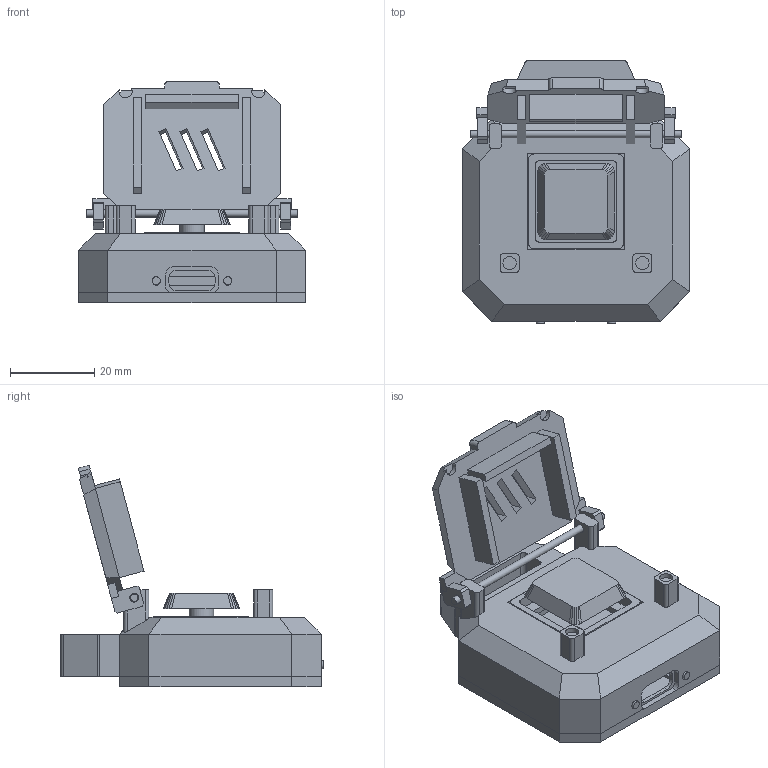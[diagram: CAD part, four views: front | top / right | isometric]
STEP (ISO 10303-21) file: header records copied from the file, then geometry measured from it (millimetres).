
FILE_DESCRIPTION(('Open CASCADE Model'),'2;1');
FILE_NAME('Open CASCADE Shape Model','2026-09-30T20:51:50',('Author'),( 'Open CASCADE'),'Open CASCADE STEP processor 7.9','Open CASCADE 7.9' ,'Unknown');
FILE_SCHEMA(('AUTOMOTIVE_DESIGN { 1 0 10303 214 1 1 1 1 }'));
Length unit declared in the file: millimetre
Products named in the file (9): ff07a9ea-bcff-11f1-a0bf-6319a275829e; upper_shell; bottom_chassis; keycap; accent_halo; lightguides; flip_shield_open; xiao_locking_wedge; filament_hinge_pin
Assembly tree (8 placements, depth 2):
  ff07a9ea-bcff-11f1-a0bf-6319a275829e
    upper_shell
    bottom_chassis
    keycap
    accent_halo
    lightguides
    flip_shield_open
    xiao_locking_wedge
    filament_hinge_pin
Bounding box: 54 x 62.5 x 52.7 mm (x, y, z)
Volume: 24966.9 mm3; surface area: 24930.6 mm2
Topology: 8 solids, 8 shells, 507 faces, 1342 edges, 886 vertices
Faces by surface type: plane 357, cylinder 74, bspline 74, cone 2
Full cylindrical faces by diameter (mm): 1.75 x1, 1.9 x2, 2 x2, 2.1 x4, 3.15 x2, 3.4 x6, 5.8 x1, 7.2 x2
Entity records: 34694 total; most frequent: CARTESIAN_POINT 8719, DIRECTION 4305, LINE 3039, VECTOR 3039, ORIENTED_EDGE 2684, PCURVE 2684, DEFINITIONAL_REPRESENTATION 2684, EDGE_CURVE 1342
